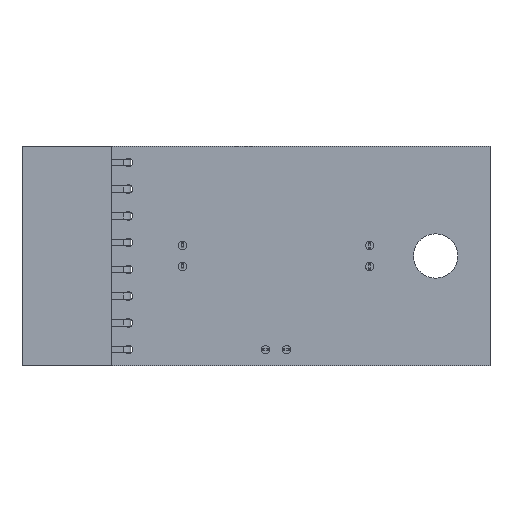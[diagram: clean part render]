
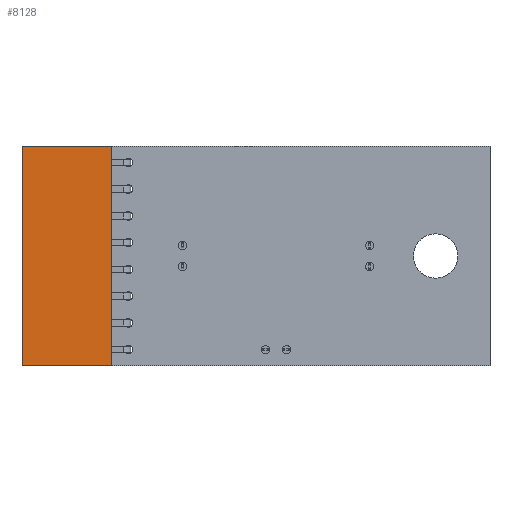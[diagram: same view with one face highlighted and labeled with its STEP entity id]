
A CAD part, front view. The second image highlights one B-rep face of the part: STEP entity #8128.
In plain terms, the highlighted planar face has unit normal (0, -1, 0) as drawn and (0, 0, 1) by its records, which use the part's own axes.
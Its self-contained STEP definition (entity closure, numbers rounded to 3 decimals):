
#148 = CARTESIAN_POINT ( 'NONE',  ( -10.414, 4.255, 2.54 ) ) ;
#325 = CARTESIAN_POINT ( 'NONE',  ( 10.414, 4.255, 2.54 ) ) ;
#351 = FACE_OUTER_BOUND ( 'NONE', #6560, .T. ) ;
#359 = VERTEX_POINT ( 'NONE', #595 ) ;
#595 = CARTESIAN_POINT ( 'NONE',  ( -10.414, -4.255, 2.54 ) ) ;
#676 = VERTEX_POINT ( 'NONE', #6451 ) ;
#781 = DIRECTION ( 'NONE',  ( -1., 0., 0. ) ) ;
#897 = ORIENTED_EDGE ( 'NONE', *, *, #6300, .T. ) ;
#924 = VECTOR ( 'NONE', #5835, 1000. ) ;
#1267 = LINE ( 'NONE', #3558, #924 ) ;
#1334 = EDGE_CURVE ( 'NONE', #6620, #9781, #4605, .T. ) ;
#2090 = CARTESIAN_POINT ( 'NONE',  ( 0., 0., 2.54 ) ) ;
#2148 = VECTOR ( 'NONE', #3754, 1000. ) ;
#2569 = DIRECTION ( 'NONE',  ( 0., 1., 0. ) ) ;
#2665 = EDGE_CURVE ( 'NONE', #359, #676, #1267, .T. ) ;
#2721 = LINE ( 'NONE', #9378, #3411 ) ;
#2748 = ORIENTED_EDGE ( 'NONE', *, *, #2665, .T. ) ;
#2968 = ORIENTED_EDGE ( 'NONE', *, *, #4260, .T. ) ;
#3167 = ORIENTED_EDGE ( 'NONE', *, *, #1334, .T. ) ;
#3411 = VECTOR ( 'NONE', #2569, 1000. ) ;
#3558 = CARTESIAN_POINT ( 'NONE',  ( -10.414, -4.255, 2.54 ) ) ;
#3634 = DIRECTION ( 'NONE',  ( -1., 0., 0. ) ) ;
#3754 = DIRECTION ( 'NONE',  ( 0., -1., 0. ) ) ;
#4260 = EDGE_CURVE ( 'NONE', #9781, #359, #9121, .T. ) ;
#4267 = DIRECTION ( 'NONE',  ( 0., 0., -1. ) ) ;
#4605 = LINE ( 'NONE', #148, #5151 ) ;
#5151 = VECTOR ( 'NONE', #781, 1000. ) ;
#5835 = DIRECTION ( 'NONE',  ( 1., 0., 0. ) ) ;
#6300 = EDGE_CURVE ( 'NONE', #676, #6620, #2721, .T. ) ;
#6451 = CARTESIAN_POINT ( 'NONE',  ( 10.414, -4.255, 2.54 ) ) ;
#6560 = EDGE_LOOP ( 'NONE', ( #897, #3167, #2968, #2748 ) ) ;
#6620 = VERTEX_POINT ( 'NONE', #325 ) ;
#8128 = ADVANCED_FACE ( 'NONE', ( #351 ), #8587, .F. ) ;
#8245 = CARTESIAN_POINT ( 'NONE',  ( -10.414, 4.255, 2.54 ) ) ;
#8587 = PLANE ( 'NONE',  #9468 ) ;
#9074 = CARTESIAN_POINT ( 'NONE',  ( -10.414, -4.255, 2.54 ) ) ;
#9121 = LINE ( 'NONE', #9074, #2148 ) ;
#9378 = CARTESIAN_POINT ( 'NONE',  ( 10.414, -4.255, 2.54 ) ) ;
#9468 = AXIS2_PLACEMENT_3D ( 'NONE', #2090, #4267, #3634 ) ;
#9781 = VERTEX_POINT ( 'NONE', #8245 ) ;
